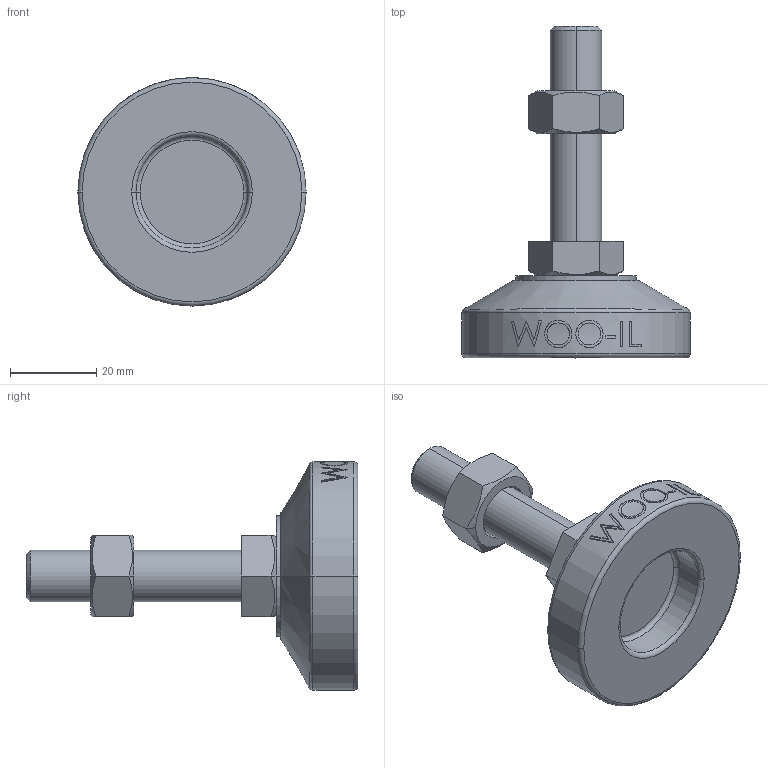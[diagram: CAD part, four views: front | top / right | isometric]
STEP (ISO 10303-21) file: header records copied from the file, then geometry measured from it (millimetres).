
FILE_DESCRIPTION (( 'STEP AP214' ), '1' );
FILE_NAME ('MFZ53-M12-50.step', '2021-01-15T07:04:09', ( '' ), ( '' ), 'SwSTEP 2.0', 'SolidWorks 2019', '' );
FILE_SCHEMA (( 'AUTOMOTIVE_DESIGN' ));
Length unit declared in the file: millimetre
Products named in the file (2): MFZ53-M12-50
Bounding box: 53 x 77 x 53 mm (x, y, z)
Volume: 40148.8 mm3; surface area: 11434.3 mm2
Topology: 3 solids, 3 shells, 106 faces, 243 edges, 154 vertices
Faces by surface type: plane 48, cylinder 18, bspline 16, cone 14, torus 10
Entity records: 4508 total; most frequent: CARTESIAN_POINT 2165, ORIENTED_EDGE 486, DIRECTION 439, EDGE_CURVE 243, AXIS2_PLACEMENT_3D 170, VERTEX_POINT 154, EDGE_LOOP 119, ADVANCED_FACE 106
